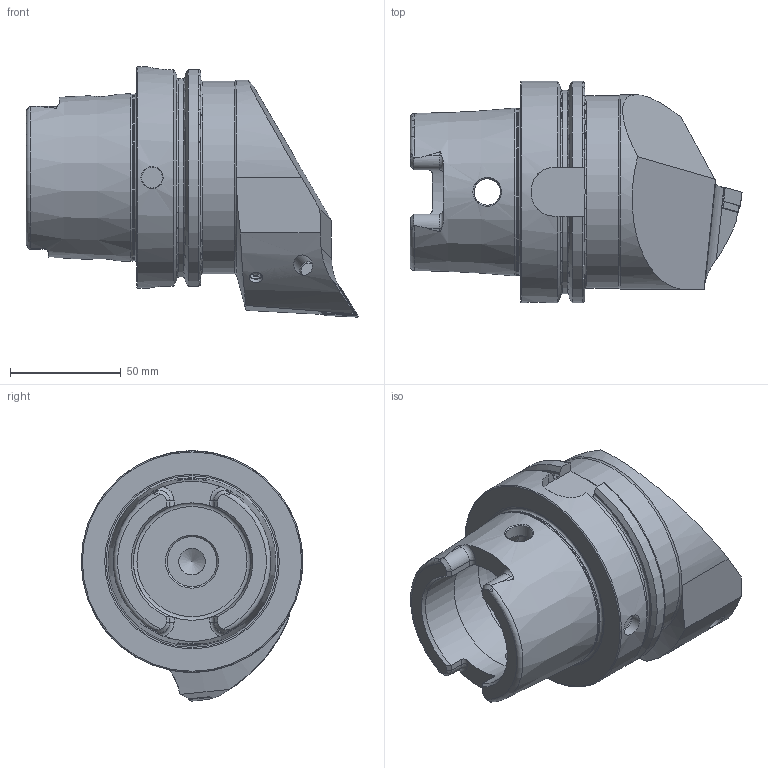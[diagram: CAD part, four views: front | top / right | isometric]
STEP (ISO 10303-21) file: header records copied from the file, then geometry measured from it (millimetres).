
FILE_DESCRIPTION (( 'STEP AP214' ), '1' );
FILE_NAME ('HA0.PDF.RJA.100-HP.STEP', '2022-01-17T09:41:07', ( '' ), ( '' ), 'SwSTEP 2.0', 'SolidWorks 2017', '' );
FILE_SCHEMA (( 'AUTOMOTIVE_DESIGN' ));
Length unit declared in the file: millimetre
Products named in the file (14): DIN 7991 - M5x15; CHP-ER1.015.006; HA0-PDF.RJA.100-HP_A_Fertigbearbeitung; DIN 3771 - 13x1; HA0.PDF.RJA.100-HP; CHP-ER1.015.006_A; DNMG150604; CHP-ER1.008.014_A; ISO 8752 2x8; WDF-ER2.101.003_A; WCD-ER4.101.017_A; WCD-ER1.101.000; WDF-ER3.101.000_A; KVT_MB_600_060
Assembly tree (13 placements, depth 3):
  HA0.PDF.RJA.100-HP
    HA0-PDF.RJA.100-HP_A_Fertigbearbeitung
    KVT_MB_600_060
    DNMG150604
    WDF-ER2.101.003_A
    WCD-ER4.101.017_A
    WDF-ER3.101.000_A
    CHP-ER1.008.014_A
    CHP-ER1.015.006
      CHP-ER1.015.006_A
      DIN 3771 - 13x1
      DIN 7991 - M5x15
    ISO 8752 2x8
    WCD-ER1.101.000
Bounding box: 149.9 x 100 x 113 mm (x, y, z)
Volume: 524686.7 mm3; surface area: 73767.5 mm2
Topology: 13 solids, 13 shells, 381 faces, 937 edges, 580 vertices
Faces by surface type: plane 155, cylinder 91, cone 84, torus 36, bspline 14, sphere 1
Full cylindrical faces by diameter (mm): 2 x1, 2.5 x1, 3 x1, 3.55 x1, 4.2 x2, 4.7 x1, 5 x5, 5.16 x1, 5.2 x1, 5.5 x1, 6 x3, 6.4 x2, 7 x2, 7.9 x2, 8 x2, 8.4 x1, 10 x2, 12 x3, 13.4 x1, 15 x4, 22.5 x1, 26 x1, 53 x2, 63 x1, 75.265 x1, 87 x1, 100 x1
Entity records: 14359 total; most frequent: CARTESIAN_POINT 4683, DIRECTION 1643, ORIENTED_EDGE 1572, EDGE_CURVE 786, AXIS2_PLACEMENT_3D 664, VERTEX_POINT 549, EDGE_LOOP 521, FACE_OUTER_BOUND 441
